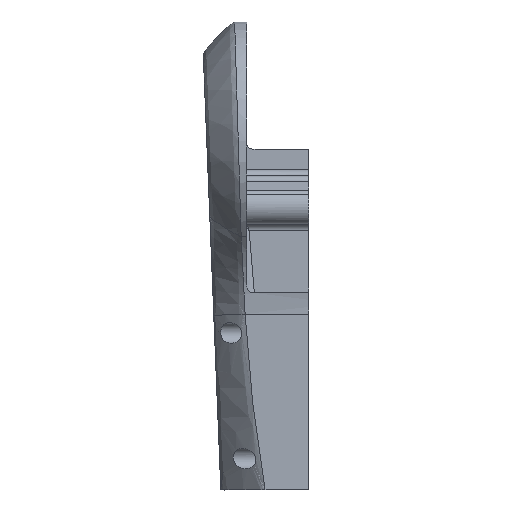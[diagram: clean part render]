
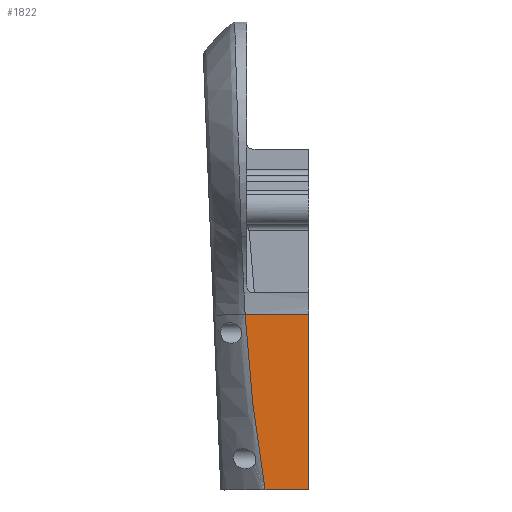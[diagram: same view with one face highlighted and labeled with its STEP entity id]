
A CAD part, front view. The second image highlights one B-rep face of the part: STEP entity #1822.
In plain terms, the highlighted planar face has unit normal (0, -1, 0).
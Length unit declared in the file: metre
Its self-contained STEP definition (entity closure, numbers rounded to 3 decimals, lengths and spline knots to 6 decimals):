
#36=PLANE('',#1978);
#64=LINE('',#2950,#156);
#84=LINE('',#3062,#176);
#103=LINE('',#4089,#195);
#156=VECTOR('',#2123,1.);
#176=VECTOR('',#2191,1.);
#195=VECTOR('',#2236,1.);
#332=B_SPLINE_CURVE_WITH_KNOTS('',3,(#3452,#3453,#3454,#3455,#3456,#3457,
#3458,#3459,#3460,#3461,#3462,#3463,#3464,#3465,#3466,#3467,#3468,#3469,
#3470,#3471,#3472,#3473,#3474,#3475,#3476,#3477,#3478,#3479,#3480,#3481,
#3482,#3483,#3484,#3485,#3486,#3487,#3488,#3489,#3490,#3491,#3492,#3493,
#3494),.UNSPECIFIED.,.F.,.F.,(4,1,1,1,1,1,1,1,1,1,1,1,1,1,1,1,1,1,1,1,1,
1,1,1,1,1,1,1,1,1,1,1,1,1,1,1,1,1,1,1,4),(0.,0.0625,0.09375,0.125,0.15625,
0.1875,0.203125,0.21875,0.234375,0.242188,0.246094,0.25,0.253906,0.257813,
0.265625,0.28125,0.296875,0.3125,0.34375,0.375,0.4375,0.46875,0.484375,
0.492188,0.5,0.507813,0.515625,0.53125,0.5625,0.59375,0.625,0.6875,0.71875,
0.734375,0.75,0.765625,0.78125,0.8125,0.875,0.9375,1.),.UNSPECIFIED.);
#617=ORIENTED_EDGE('',*,*,#1063,.F.);
#618=ORIENTED_EDGE('',*,*,#1037,.F.);
#619=ORIENTED_EDGE('',*,*,#995,.F.);
#620=ORIENTED_EDGE('',*,*,#1115,.F.);
#995=EDGE_CURVE('',#1265,#1266,#64,.T.);
#1037=EDGE_CURVE('',#1266,#1307,#84,.T.);
#1063=EDGE_CURVE('',#1307,#1326,#332,.T.);
#1115=EDGE_CURVE('',#1326,#1265,#103,.F.);
#1265=VERTEX_POINT('',#2949);
#1266=VERTEX_POINT('',#2951);
#1307=VERTEX_POINT('',#3063);
#1326=VERTEX_POINT('',#3409);
#1533=EDGE_LOOP('',(#617,#618,#619,#620));
#1670=FACE_BOUND('',#1533,.T.);
#1822=ADVANCED_FACE('',(#1670),#36,.F.);
#1978=AXIS2_PLACEMENT_3D('',#4222,#2250,#2251);
#2123=DIRECTION('',(0.,0.,-1.));
#2191=DIRECTION('',(-1.,0.,0.));
#2236=DIRECTION('',(-1.,0.,0.));
#2250=DIRECTION('',(0.,1.,0.));
#2251=DIRECTION('',(0.,0.,1.));
#2949=CARTESIAN_POINT('',(-0.221,-0.02465,0.015509));
#2950=CARTESIAN_POINT('',(-0.221,-0.02465,-0.003957));
#2951=CARTESIAN_POINT('',(-0.221,-0.02465,-0.0405));
#3062=CARTESIAN_POINT('',(0.865599,-0.02465,-0.0405));
#3063=CARTESIAN_POINT('',(-0.234928,-0.02465,-0.0405));
#3409=CARTESIAN_POINT('',(-0.241247,-0.02465,0.015509));
#3452=CARTESIAN_POINT('',(-0.234928,-0.02465,-0.0405));
#3453=CARTESIAN_POINT('',(-0.235161,-0.02465,-0.038934));
#3454=CARTESIAN_POINT('',(-0.235488,-0.02465,-0.036736));
#3455=CARTESIAN_POINT('',(-0.235877,-0.02465,-0.034105));
#3456=CARTESIAN_POINT('',(-0.236145,-0.02465,-0.032282));
#3457=CARTESIAN_POINT('',(-0.236391,-0.02465,-0.030609));
#3458=CARTESIAN_POINT('',(-0.236575,-0.02465,-0.029341));
#3459=CARTESIAN_POINT('',(-0.236711,-0.02465,-0.0284));
#3460=CARTESIAN_POINT('',(-0.236807,-0.02465,-0.027734));
#3461=CARTESIAN_POINT('',(-0.236883,-0.02465,-0.027205));
#3462=CARTESIAN_POINT('',(-0.236933,-0.02465,-0.026862));
#3463=CARTESIAN_POINT('',(-0.236962,-0.02465,-0.026654));
#3464=CARTESIAN_POINT('',(-0.236978,-0.02465,-0.026546));
#3465=CARTESIAN_POINT('',(-0.237017,-0.02465,-0.026267));
#3466=CARTESIAN_POINT('',(-0.237061,-0.02465,-0.025956));
#3467=CARTESIAN_POINT('',(-0.237142,-0.02465,-0.025387));
#3468=CARTESIAN_POINT('',(-0.237253,-0.02465,-0.024596));
#3469=CARTESIAN_POINT('',(-0.237385,-0.02465,-0.023653));
#3470=CARTESIAN_POINT('',(-0.237557,-0.02465,-0.022415));
#3471=CARTESIAN_POINT('',(-0.237765,-0.02465,-0.020896));
#3472=CARTESIAN_POINT('',(-0.238083,-0.02465,-0.018531));
#3473=CARTESIAN_POINT('',(-0.238379,-0.02465,-0.016267));
#3474=CARTESIAN_POINT('',(-0.23862,-0.02465,-0.014365));
#3475=CARTESIAN_POINT('',(-0.238734,-0.02465,-0.013443));
#3476=CARTESIAN_POINT('',(-0.2388,-0.02465,-0.01291));
#3477=CARTESIAN_POINT('',(-0.238844,-0.02465,-0.012548));
#3478=CARTESIAN_POINT('',(-0.238904,-0.02465,-0.012054));
#3479=CARTESIAN_POINT('',(-0.238978,-0.02465,-0.011445));
#3480=CARTESIAN_POINT('',(-0.239107,-0.02465,-0.010363));
#3481=CARTESIAN_POINT('',(-0.239283,-0.02465,-0.008846));
#3482=CARTESIAN_POINT('',(-0.239485,-0.02465,-0.007051));
#3483=CARTESIAN_POINT('',(-0.239739,-0.02465,-0.004698));
#3484=CARTESIAN_POINT('',(-0.239973,-0.02465,-0.002399));
#3485=CARTESIAN_POINT('',(-0.240158,-0.02465,-0.000448));
#3486=CARTESIAN_POINT('',(-0.24026,-0.02465,0.000668));
#3487=CARTESIAN_POINT('',(-0.24033,-0.02465,0.001452));
#3488=CARTESIAN_POINT('',(-0.240413,-0.02465,0.002404));
#3489=CARTESIAN_POINT('',(-0.240514,-0.02465,0.003606));
#3490=CARTESIAN_POINT('',(-0.240682,-0.02465,0.005719));
#3491=CARTESIAN_POINT('',(-0.240892,-0.02465,0.008672));
#3492=CARTESIAN_POINT('',(-0.241097,-0.02465,0.012139));
#3493=CARTESIAN_POINT('',(-0.241202,-0.02465,0.014395));
#3494=CARTESIAN_POINT('',(-0.241247,-0.02465,0.015509));
#4089=CARTESIAN_POINT('',(0.865599,-0.02465,0.015509));
#4222=CARTESIAN_POINT('',(0.865599,-0.02465,-0.003957));
